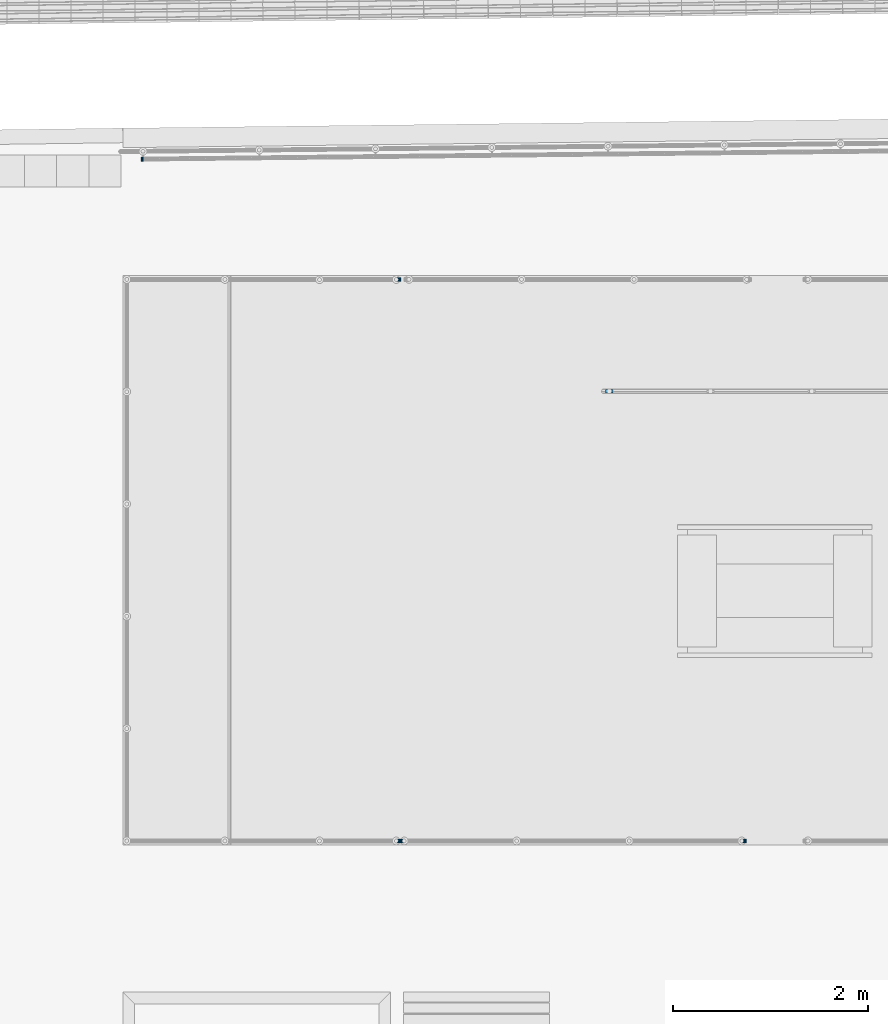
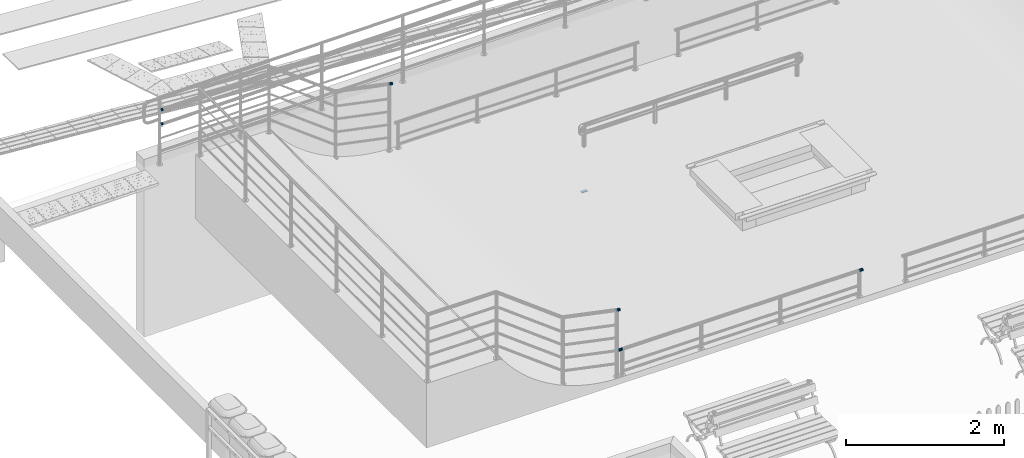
# One storey, part 140 of 237: 7 building element parts, 4 elements without a shape of their own.
"""IFC2X3 building model written with IfcOpenShell, lengths in millimetres."""

from ifc_helpers import new_model, entity, si_unit, converted_unit, derived_unit, money_unit, direction, frame, origin_with_axes, place, context, subcontext, project, spatial, faceted_brep, material, type_object, element, aggregate, save


model = new_model("IFC2X3")

# Units and contexts
model_context = context("Model", 3, precision=0.01, world=origin_with_axes(), true_north=direction((0.0, 1.0)))
body_context = subcontext(model_context, "Body", "Model", "MODEL_VIEW")
ifc_project = project(units=[si_unit("LENGTHUNIT", "METRE", prefix="MILLI"), si_unit("AREAUNIT", "SQUARE_METRE"), si_unit("VOLUMEUNIT", "CUBIC_METRE"), converted_unit("PLANEANGLEUNIT", "DEGREE", entity("IfcPlaneAngleMeasure", 0.0174532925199), si_unit("PLANEANGLEUNIT", "RADIAN"), dimensions=[0, 0, 0, 0, 0, 0, 0]), money_unit("USD"), converted_unit("TIMEUNIT", "Year", entity("IfcTimeMeasure", 31556926.0), si_unit("TIMEUNIT", "SECOND"), dimensions=[0, 0, 1, 0, 0, 0, 0]), si_unit("MASSUNIT", "GRAM", prefix="KILO"), si_unit("THERMODYNAMICTEMPERATUREUNIT", "DEGREE_CELSIUS"), si_unit("LUMINOUSINTENSITYUNIT", "LUMEN"), si_unit("ENERGYUNIT", "JOULE", prefix="MEGA"), derived_unit("THERMALCONDUCTANCEUNIT", [(si_unit("POWERUNIT", "WATT"), 1), (si_unit("LENGTHUNIT", "METRE"), -1), (si_unit("THERMODYNAMICTEMPERATUREUNIT", "KELVIN"), -1)]), derived_unit("SPECIFICHEATCAPACITYUNIT", [(si_unit("ENERGYUNIT", "JOULE"), 1), (si_unit("MASSUNIT", "GRAM", prefix="KILO"), -1), (si_unit("THERMODYNAMICTEMPERATUREUNIT", "KELVIN"), -1)]), derived_unit("MASSDENSITYUNIT", [(si_unit("MASSUNIT", "GRAM", prefix="KILO"), 1), (si_unit("VOLUMEUNIT", "CUBIC_METRE"), -1)])], contexts=[model_context])

# Site, building, storey
site_placement = place(None, origin_with_axes())
site = spatial("IfcSite", under=ifc_project, at=site_placement, Name="Local", CompositionType="ELEMENT")
building_placement = place(site_placement, origin_with_axes())
building = spatial("IfcBuilding", under=site, at=building_placement, Name="Construção", CompositionType="ELEMENT")
storey_placement = place(building_placement, origin_with_axes())
storey = spatial("IfcBuildingStorey", under=building, at=storey_placement, Name="Pavimento Térreo", CompositionType="ELEMENT", Elevation=0.0)

# Railing, building element parts
railing_type = type_object("IfcRailingType", Name="Tipo de Guarda-Corpo", PredefinedType="NOTDEFINED")
railing_1_placement = place(storey_placement, frame((70326.6870103, 28675.2458388, -1357.10819655), z_axis=(0.0, 0.0, 1.0), x_axis=(1.0, 0.0, 0.0)))
railing_1 = element("IfcRailing", 1, at=railing_1_placement, inside=storey, type_object=railing_type, Name="Guarda-Corpo - 004", PredefinedType="NOTDEFINED")
ifc_material_1 = material(Name="Aço - Inoxidável")
building_element_part_1_placement = place(railing_1_placement, origin_with_axes())
building_element_part_1 = element("IfcBuildingElementPart", 2, at=building_element_part_1_placement, material=ifc_material_1, Name="Aço - Inoxidável", context=body_context, shape_type="Brep", body=[
    faceted_brep([(-19056.4372003, 6396.08455106, 680.0), (-19056.4405052, 6396.38837802, 683.472963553), (-19076.4393221, 6396.17083844, 683.472963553), (-19076.4360172, 6395.86701147, 680.0), (-19056.4405052, 6396.38837802, 676.527036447), (-19056.4503196, 6397.29062729, 673.159597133), (-19056.4663451, 6398.76388447, 670.0), (-19056.4880949, 6400.7633854, 667.144247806), (-19056.5149082, 6403.22837624, 664.679111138), (-19056.5459701, 6406.0839595, 662.679491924), (-19056.580337, 6409.24336972, 661.206147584), (-19056.6169646, 6412.61060983, 660.30384494), (-19056.6547399, 6416.08336793, 660.0), (-19056.6925153, 6419.55612604, 660.30384494), (-19056.7291428, 6422.92336615, 661.206147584), (-19056.7635097, 6426.08277637, 662.679491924), (-19056.7945717, 6428.93835963, 664.679111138), (-19056.8213849, 6431.40335047, 667.144247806), (-19056.8431347, 6433.4028514, 670.0), (-19056.8591602, 6434.87610858, 673.159597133), (-19056.8689746, 6435.77835785, 676.527036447), (-19056.8722795, 6436.08218481, 680.0), (-19056.8689746, 6435.77835785, 683.472963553), (-19056.8591602, 6434.87610858, 686.840402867), (-19056.8431347, 6433.4028514, 690.0), (-19056.8213849, 6431.40335047, 692.855752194), (-19056.7945717, 6428.93835963, 695.320888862), (-19056.7635097, 6426.08277637, 697.320508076), (-19056.7291428, 6422.92336615, 698.793852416), (-19056.6925153, 6419.55612604, 699.69615506), (-19056.6547399, 6416.08336793, 700.0), (-19056.6169646, 6412.61060983, 699.69615506), (-19056.580337, 6409.24336972, 698.793852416), (-19056.5459701, 6406.0839595, 697.320508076), (-19056.5149082, 6403.22837624, 695.320888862), (-19056.4880949, 6400.7633854, 692.855752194), (-19056.4663451, 6398.76388447, 690.0), (-19056.4503196, 6397.29062729, 686.840402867), (-19076.4491364, 6397.07308771, 686.840402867), (-19076.465162, 6398.54634489, 690.0), (-19076.4869118, 6400.54584581, 692.855752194), (-19076.513725, 6403.01083665, 695.320888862), (-19076.544787, 6405.86641991, 697.320508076), (-19076.5791539, 6409.02583014, 698.793852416), (-19076.6157814, 6412.39307025, 699.69615506), (-19076.6535568, 6415.86582835, 700.0), (-19076.6913321, 6419.33858646, 699.69615506), (-19076.7279597, 6422.70582657, 698.793852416), (-19076.7623266, 6425.86523679, 697.320508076), (-19076.7933885, 6428.72082005, 695.320888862), (-19076.8202018, 6431.18581089, 692.855752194), (-19076.8419516, 6433.18531181, 690.0), (-19076.8579771, 6434.658569, 686.840402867), (-19076.8677914, 6435.56081826, 683.472963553), (-19076.8710964, 6435.86464523, 680.0), (-19076.8677914, 6435.56081826, 676.527036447), (-19076.8579771, 6434.658569, 673.159597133), (-19076.8419516, 6433.18531181, 670.0), (-19076.8202018, 6431.18581089, 667.144247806), (-19076.7933885, 6428.72082005, 664.679111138), (-19076.7623266, 6425.86523679, 662.679491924), (-19076.7279597, 6422.70582657, 661.206147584), (-19076.6913321, 6419.33858646, 660.30384494), (-19076.6535568, 6415.86582835, 660.0), (-19076.6157814, 6412.39307025, 660.30384494), (-19076.5791539, 6409.02583014, 661.206147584), (-19076.544787, 6405.86641991, 662.679491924), (-19076.513725, 6403.01083665, 664.679111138), (-19076.4869118, 6400.54584581, 667.144247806), (-19076.465162, 6398.54634489, 670.0), (-19076.4491364, 6397.07308771, 673.159597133), (-19076.4393221, 6396.17083844, 676.527036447)], [[[0, 1, 2, 3]], [[0, 4, 5, 6, 7, 8, 9, 10, 11, 12, 13, 14, 15, 16, 17, 18, 19, 20, 21, 22, 23, 24, 25, 26, 27, 28, 29, 30, 31, 32, 33, 34, 35, 36, 37, 1]], [[1, 37, 38, 2]], [[3, 2, 38, 39, 40, 41, 42, 43, 44, 45, 46, 47, 48, 49, 50, 51, 52, 53, 54, 55, 56, 57, 58, 59, 60, 61, 62, 63, 64, 65, 66, 67, 68, 69, 70, 71]], [[4, 0, 3, 71]], [[5, 4, 71, 70]], [[6, 5, 70, 69]], [[7, 6, 69, 68]], [[8, 7, 68, 67]], [[9, 8, 67, 66]], [[10, 9, 66, 65]], [[11, 10, 65, 64]], [[12, 11, 64, 63]], [[13, 12, 63, 62]], [[14, 13, 62, 61]], [[15, 14, 61, 60]], [[16, 15, 60, 59]], [[17, 16, 59, 58]], [[18, 17, 58, 57]], [[19, 18, 57, 56]], [[20, 19, 56, 55]], [[21, 20, 55, 54]], [[22, 21, 54, 53]], [[23, 22, 53, 52]], [[24, 23, 52, 51]], [[25, 24, 51, 50]], [[26, 25, 50, 49]], [[27, 26, 49, 48]], [[28, 27, 48, 47]], [[29, 28, 47, 46]], [[30, 29, 46, 45]], [[31, 30, 45, 44]], [[32, 31, 44, 43]], [[33, 32, 43, 42]], [[34, 33, 42, 41]], [[35, 34, 41, 40]], [[36, 35, 40, 39]], [[37, 36, 39, 38]]]),
])
building_element_part_2_placement = place(railing_1_placement, origin_with_axes())
building_element_part_2 = element("IfcBuildingElementPart", 3, at=building_element_part_2_placement, material=ifc_material_1, Name="Aço - Inoxidável", context=body_context, shape_type="Brep", body=[
    faceted_brep([(-19056.4372003, 6396.08455106, 900.0), (-19056.4405052, 6396.38837802, 903.472963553), (-19076.4393221, 6396.17083844, 903.472963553), (-19076.4360172, 6395.86701147, 900.0), (-19056.4405052, 6396.38837802, 896.527036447), (-19056.4503196, 6397.29062729, 893.159597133), (-19056.4663451, 6398.76388447, 890.0), (-19056.4880949, 6400.7633854, 887.144247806), (-19056.5149082, 6403.22837624, 884.679111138), (-19056.5459701, 6406.0839595, 882.679491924), (-19056.580337, 6409.24336972, 881.206147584), (-19056.6169646, 6412.61060983, 880.30384494), (-19056.6547399, 6416.08336793, 880.0), (-19056.6925153, 6419.55612604, 880.30384494), (-19056.7291428, 6422.92336615, 881.206147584), (-19056.7635097, 6426.08277637, 882.679491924), (-19056.7945717, 6428.93835963, 884.679111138), (-19056.8213849, 6431.40335047, 887.144247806), (-19056.8431347, 6433.4028514, 890.0), (-19056.8591602, 6434.87610858, 893.159597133), (-19056.8689746, 6435.77835785, 896.527036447), (-19056.8722795, 6436.08218481, 900.0), (-19056.8689746, 6435.77835785, 903.472963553), (-19056.8591602, 6434.87610858, 906.840402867), (-19056.8431347, 6433.4028514, 910.0), (-19056.8213849, 6431.40335047, 912.855752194), (-19056.7945717, 6428.93835963, 915.320888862), (-19056.7635097, 6426.08277637, 917.320508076), (-19056.7291428, 6422.92336615, 918.793852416), (-19056.6925153, 6419.55612604, 919.69615506), (-19056.6547399, 6416.08336793, 920.0), (-19056.6169646, 6412.61060983, 919.69615506), (-19056.580337, 6409.24336972, 918.793852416), (-19056.5459701, 6406.0839595, 917.320508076), (-19056.5149082, 6403.22837624, 915.320888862), (-19056.4880949, 6400.7633854, 912.855752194), (-19056.4663451, 6398.76388447, 910.0), (-19056.4503196, 6397.29062729, 906.840402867), (-19076.4491364, 6397.07308771, 906.840402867), (-19076.465162, 6398.54634489, 910.0), (-19076.4869118, 6400.54584581, 912.855752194), (-19076.513725, 6403.01083665, 915.320888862), (-19076.544787, 6405.86641991, 917.320508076), (-19076.5791539, 6409.02583014, 918.793852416), (-19076.6157814, 6412.39307025, 919.69615506), (-19076.6535568, 6415.86582835, 920.0), (-19076.6913321, 6419.33858646, 919.69615506), (-19076.7279597, 6422.70582657, 918.793852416), (-19076.7623266, 6425.86523679, 917.320508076), (-19076.7933885, 6428.72082005, 915.320888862), (-19076.8202018, 6431.18581089, 912.855752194), (-19076.8419516, 6433.18531181, 910.0), (-19076.8579771, 6434.658569, 906.840402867), (-19076.8677914, 6435.56081826, 903.472963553), (-19076.8710964, 6435.86464523, 900.0), (-19076.8677914, 6435.56081826, 896.527036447), (-19076.8579771, 6434.658569, 893.159597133), (-19076.8419516, 6433.18531181, 890.0), (-19076.8202018, 6431.18581089, 887.144247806), (-19076.7933885, 6428.72082005, 884.679111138), (-19076.7623266, 6425.86523679, 882.679491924), (-19076.7279597, 6422.70582657, 881.206147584), (-19076.6913321, 6419.33858646, 880.30384494), (-19076.6535568, 6415.86582835, 880.0), (-19076.6157814, 6412.39307025, 880.30384494), (-19076.5791539, 6409.02583014, 881.206147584), (-19076.544787, 6405.86641991, 882.679491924), (-19076.513725, 6403.01083665, 884.679111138), (-19076.4869118, 6400.54584581, 887.144247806), (-19076.465162, 6398.54634489, 890.0), (-19076.4491364, 6397.07308771, 893.159597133), (-19076.4393221, 6396.17083844, 896.527036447)], [[[0, 1, 2, 3]], [[0, 4, 5, 6, 7, 8, 9, 10, 11, 12, 13, 14, 15, 16, 17, 18, 19, 20, 21, 22, 23, 24, 25, 26, 27, 28, 29, 30, 31, 32, 33, 34, 35, 36, 37, 1]], [[1, 37, 38, 2]], [[3, 2, 38, 39, 40, 41, 42, 43, 44, 45, 46, 47, 48, 49, 50, 51, 52, 53, 54, 55, 56, 57, 58, 59, 60, 61, 62, 63, 64, 65, 66, 67, 68, 69, 70, 71]], [[4, 0, 3, 71]], [[5, 4, 71, 70]], [[6, 5, 70, 69]], [[7, 6, 69, 68]], [[8, 7, 68, 67]], [[9, 8, 67, 66]], [[10, 9, 66, 65]], [[11, 10, 65, 64]], [[12, 11, 64, 63]], [[13, 12, 63, 62]], [[14, 13, 62, 61]], [[15, 14, 61, 60]], [[16, 15, 60, 59]], [[17, 16, 59, 58]], [[18, 17, 58, 57]], [[19, 18, 57, 56]], [[20, 19, 56, 55]], [[21, 20, 55, 54]], [[22, 21, 54, 53]], [[23, 22, 53, 52]], [[24, 23, 52, 51]], [[25, 24, 51, 50]], [[26, 25, 50, 49]], [[27, 26, 49, 48]], [[28, 27, 48, 47]], [[29, 28, 47, 46]], [[30, 29, 46, 45]], [[31, 30, 45, 44]], [[32, 31, 44, 43]], [[33, 32, 43, 42]], [[34, 33, 42, 41]], [[35, 34, 41, 40]], [[36, 35, 40, 39]], [[37, 36, 39, 38]]]),
])
aggregate(railing_1, [building_element_part_1, building_element_part_2])

railing_2_placement = place(storey_placement, frame((53912.4440926, 33356.4497128, -1263.04952679), z_axis=(0.0, 0.0, 1.0), x_axis=(1.0, 0.0, 0.0)))
railing_2 = element("IfcRailing", 4, at=railing_2_placement, inside=storey, type_object=railing_type, Name="Guarda-Corpo - 001", PredefinedType="NOTDEFINED")
building_element_part_3_placement = place(railing_2_placement, origin_with_axes())
building_element_part_3 = element("IfcBuildingElementPart", 5, at=building_element_part_3_placement, material=ifc_material_1, Name="Aço - Inoxidável", context=body_context, shape_type="Brep", body=[
    faceted_brep([(-44.0298793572, 517.133522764, 1038.71851149), (-43.3236510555, 516.830881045, 1042.11901839), (5.63312472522, 516.91432069, 1031.95894246), (4.92689642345, 517.216962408, 1028.55843556), (-44.7350719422, 516.828475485, 1035.3180046), (-45.4178018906, 515.925007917, 1032.02082038), (-46.0573247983, 514.450571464, 1028.92714212), (-46.6342090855, 512.449966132, 1026.13096966), (-47.130926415, 509.983979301, 1023.71726329), (-47.532384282, 507.127538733, 1021.75936226), (-47.8263845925, 503.96743593, 1020.31675639), (-48.0039942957, 500.599689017, 1019.43327854), (-48.0598168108, 497.126625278, 1019.13577274), (-47.9921559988, 493.653771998, 1019.43327854), (-47.8030676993, 490.286650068, 1020.31675639), (-47.4982972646, 487.127567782, 1021.75936226), (-47.08710499, 484.272512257, 1023.71726329), (-46.5819847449, 481.808232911, 1026.13096966), (-45.9982843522, 479.809605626, 1028.92714212), (-45.3537392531, 478.337357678, 1032.02082038), (-44.6679336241, 477.436222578, 1035.3180046), (-43.9617053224, 477.13358086, 1038.71851149), (-43.2565127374, 477.438628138, 1042.11901839), (-42.573782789, 478.342095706, 1045.41620261), (-41.9342598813, 479.816532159, 1048.50988087), (-41.3573755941, 481.817137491, 1051.30605333), (-40.8606582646, 484.283124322, 1053.7197597), (-40.4592003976, 487.13956489, 1055.67766073), (-40.1652000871, 490.299667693, 1057.1202666), (-39.9875903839, 493.667414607, 1058.00374444), (-39.9317678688, 497.140478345, 1058.30125025), (-39.9994286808, 500.613331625, 1058.00374444), (-40.1885169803, 503.980453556, 1057.1202666), (-40.493287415, 507.139535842, 1055.67766073), (-40.9044796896, 509.994591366, 1053.7197597), (-41.4095999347, 512.458870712, 1051.30605333), (-41.9933003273, 514.457497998, 1048.50988087), (-42.6378454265, 515.929745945, 1045.41620261), (6.31893035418, 516.01318559, 1035.25612668), (6.96347545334, 514.540937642, 1038.34980494), (7.54717584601, 512.542310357, 1041.14597739), (8.05229609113, 510.078031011, 1043.55968376), (8.46348836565, 507.222975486, 1045.5175848), (8.76825880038, 504.0638932, 1046.96019066), (8.95734709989, 500.69677127, 1047.84366851), (9.02500791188, 497.22391799, 1048.14117431), (8.96918539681, 493.750854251, 1047.84366851), (8.79157569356, 490.383107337, 1046.96019066), (8.4975753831, 487.223004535, 1045.5175848), (8.09611751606, 484.366563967, 1043.55968376), (7.59940018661, 481.900577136, 1041.14597739), (7.02251589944, 479.899971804, 1038.34980494), (6.3829929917, 478.425535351, 1035.25612668), (5.70026304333, 477.522067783, 1031.95894246), (4.99507045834, 477.217020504, 1028.55843556), (4.28884215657, 477.519662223, 1025.15792866), (3.6030365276, 478.420797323, 1021.86074444), (2.95849142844, 479.89304527, 1018.76706618), (2.37479103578, 481.891672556, 1015.97089372), (1.86967079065, 484.355951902, 1013.55718736), (1.45847851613, 487.211007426, 1011.59928632), (1.1537080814, 490.370089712, 1010.15668046), (0.964619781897, 493.737211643, 1009.27320261), (0.896958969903, 497.210064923, 1008.97569681), (0.952781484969, 500.683128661, 1009.27320261), (1.13039118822, 504.050875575, 1010.15668046), (1.42439149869, 507.210978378, 1011.59928632), (1.82584936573, 510.067418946, 1013.55718736), (2.32256669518, 512.533405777, 1015.97089372), (2.89945098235, 514.534011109, 1018.76706618), (3.53897389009, 516.008447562, 1021.86074444), (4.22170383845, 516.91191513, 1025.15792866)], [[[0, 1, 2, 3]], [[0, 4, 5, 6, 7, 8, 9, 10, 11, 12, 13, 14, 15, 16, 17, 18, 19, 20, 21, 22, 23, 24, 25, 26, 27, 28, 29, 30, 31, 32, 33, 34, 35, 36, 37, 1]], [[1, 37, 38, 2]], [[3, 2, 38, 39, 40, 41, 42, 43, 44, 45, 46, 47, 48, 49, 50, 51, 52, 53, 54, 55, 56, 57, 58, 59, 60, 61, 62, 63, 64, 65, 66, 67, 68, 69, 70, 71]], [[4, 0, 3, 71]], [[5, 4, 71, 70]], [[6, 5, 70, 69]], [[7, 6, 69, 68]], [[8, 7, 68, 67]], [[9, 8, 67, 66]], [[10, 9, 66, 65]], [[11, 10, 65, 64]], [[12, 11, 64, 63]], [[13, 12, 63, 62]], [[14, 13, 62, 61]], [[15, 14, 61, 60]], [[16, 15, 60, 59]], [[17, 16, 59, 58]], [[18, 17, 58, 57]], [[19, 18, 57, 56]], [[20, 19, 56, 55]], [[21, 20, 55, 54]], [[22, 21, 54, 53]], [[23, 22, 53, 52]], [[24, 23, 52, 51]], [[25, 24, 51, 50]], [[26, 25, 50, 49]], [[27, 26, 49, 48]], [[28, 27, 48, 47]], [[29, 28, 47, 46]], [[30, 29, 46, 45]], [[31, 30, 45, 44]], [[32, 31, 44, 43]], [[33, 32, 43, 42]], [[34, 33, 42, 41]], [[35, 34, 41, 40]], [[36, 35, 40, 39]], [[37, 36, 39, 38]]]),
])
building_element_part_4_placement = place(railing_2_placement, origin_with_axes())
building_element_part_4 = element("IfcBuildingElementPart", 6, at=building_element_part_4_placement, material=ifc_material_1, Name="Aço - Inoxidável", context=body_context, shape_type="Brep", body=[
    faceted_brep([(-44.0640360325, -5251.51345888, 1038.71852472), (-43.3583235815, -5251.81730382, 1042.11903142), (5.59852036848, -5251.81730382, 1031.95894134), (4.89280791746, -5251.51345888, 1028.55843464), (-44.7697484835, -5251.81730382, 1035.31801803), (-45.4540182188, -5252.71960646, 1032.02083401), (-46.0960540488, -5254.1929508, 1028.92715594), (-46.6763480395, -5256.19257001, 1026.13098364), (-47.1772682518, -5258.65770668, 1023.71727742), (-47.5835944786, -5261.51345888, 1021.75937651), (-47.8829807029, -5264.67305601, 1020.31677073), (-48.0663302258, -5268.04049532, 1019.43329293), (-48.128072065, -5271.51345888, 1019.13578715), (-48.0663302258, -5274.98642243, 1019.43329293), (-47.8829807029, -5278.35386174, 1020.31677073), (-47.5835944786, -5281.51345888, 1021.75937651), (-47.1772682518, -5284.36921107, 1023.71727742), (-46.6763480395, -5286.83434774, 1026.13098364), (-46.0960540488, -5288.83396695, 1028.92715594), (-45.4540182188, -5290.30731129, 1032.02083401), (-44.7697484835, -5291.20961394, 1035.31801803), (-44.0640360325, -5291.51345888, 1038.71852472), (-43.3583235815, -5291.20961394, 1042.11903142), (-42.6740538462, -5290.30731129, 1045.41621544), (-42.0320180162, -5288.83396695, 1048.50989351), (-41.4517240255, -5286.83434774, 1051.30606581), (-40.9508038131, -5284.36921107, 1053.71977203), (-40.5444775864, -5281.51345888, 1055.67767294), (-40.2450913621, -5278.35386174, 1057.12027872), (-40.0617418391, -5274.98642243, 1058.00375652), (-40.0, -5271.51345888, 1058.3012623), (-40.0617418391, -5268.04049532, 1058.00375652), (-40.2450913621, -5264.67305601, 1057.12027872), (-40.5444775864, -5261.51345888, 1055.67767294), (-40.9508038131, -5258.65770668, 1053.71977203), (-41.4517240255, -5256.19257001, 1051.30606581), (-42.0320180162, -5254.1929508, 1048.50989351), (-42.6740538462, -5252.71960646, 1045.41621544), (6.28279010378, -5252.71960646, 1035.25612536), (6.92482593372, -5254.1929508, 1038.34980343), (7.50511992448, -5256.19257001, 1041.14597572), (8.00604013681, -5258.65770668, 1043.55968195), (8.41236636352, -5261.51345888, 1045.51758286), (8.71175258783, -5264.67305601, 1046.96018864), (8.89510211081, -5268.04049532, 1047.84366644), (8.95684394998, -5271.51345888, 1048.14117222), (8.89510211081, -5274.98642243, 1047.84366644), (8.71175258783, -5278.35386174, 1046.96018864), (8.41236636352, -5281.51345888, 1045.51758286), (8.00604013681, -5284.36921107, 1043.55968195), (7.50511992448, -5286.83434774, 1041.14597572), (6.92482593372, -5288.83396695, 1038.34980343), (6.28279010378, -5290.30731129, 1035.25612536), (5.59852036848, -5291.20961394, 1031.95894134), (4.89280791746, -5291.51345888, 1028.55843464), (4.18709546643, -5291.20961394, 1025.15792795), (3.50282573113, -5290.30731129, 1021.86074393), (2.86078990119, -5288.83396695, 1018.76706585), (2.28049591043, -5286.83434774, 1015.97089356), (1.77957569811, -5284.36921107, 1013.55718734), (1.3732494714, -5281.51345888, 1011.59928642), (1.07386324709, -5278.35386174, 1010.15668064), (0.890513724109, -5274.98642243, 1009.27320285), (0.828771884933, -5271.51345888, 1008.97569706), (0.890513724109, -5268.04049532, 1009.27320285), (1.07386324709, -5264.67305601, 1010.15668064), (1.3732494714, -5261.51345888, 1011.59928642), (1.77957569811, -5258.65770668, 1013.55718734), (2.28049591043, -5256.19257001, 1015.97089356), (2.86078990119, -5254.1929508, 1018.76706585), (3.50282573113, -5252.71960646, 1021.86074393), (4.18709546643, -5251.81730382, 1025.15792795)], [[[0, 1, 2, 3]], [[0, 4, 5, 6, 7, 8, 9, 10, 11, 12, 13, 14, 15, 16, 17, 18, 19, 20, 21, 22, 23, 24, 25, 26, 27, 28, 29, 30, 31, 32, 33, 34, 35, 36, 37, 1]], [[1, 37, 38, 2]], [[3, 2, 38, 39, 40, 41, 42, 43, 44, 45, 46, 47, 48, 49, 50, 51, 52, 53, 54, 55, 56, 57, 58, 59, 60, 61, 62, 63, 64, 65, 66, 67, 68, 69, 70, 71]], [[4, 0, 3, 71]], [[5, 4, 71, 70]], [[6, 5, 70, 69]], [[7, 6, 69, 68]], [[8, 7, 68, 67]], [[9, 8, 67, 66]], [[10, 9, 66, 65]], [[11, 10, 65, 64]], [[12, 11, 64, 63]], [[13, 12, 63, 62]], [[14, 13, 62, 61]], [[15, 14, 61, 60]], [[16, 15, 60, 59]], [[17, 16, 59, 58]], [[18, 17, 58, 57]], [[19, 18, 57, 56]], [[20, 19, 56, 55]], [[21, 20, 55, 54]], [[22, 21, 54, 53]], [[23, 22, 53, 52]], [[24, 23, 52, 51]], [[25, 24, 51, 50]], [[26, 25, 50, 49]], [[27, 26, 49, 48]], [[28, 27, 48, 47]], [[29, 28, 47, 46]], [[30, 29, 46, 45]], [[31, 30, 45, 44]], [[32, 31, 44, 43]], [[33, 32, 43, 42]], [[34, 33, 42, 41]], [[35, 34, 41, 40]], [[36, 35, 40, 39]], [[37, 36, 39, 38]]]),
])
aggregate(railing_2, [building_element_part_3, building_element_part_4])

# Railing, building element part
railing_3_placement = place(storey_placement, frame((56020.9807317, 32685.2089387, -1957.10819431), z_axis=(0.0, 0.0, 1.0), x_axis=(1.0, 0.0, 0.0)))
railing_3 = element("IfcRailing", 7, at=railing_3_placement, inside=storey, type_object=railing_type, Name="Guarda-Corpo - 001", PredefinedType="NOTDEFINED")
ifc_material_2 = material(Name="Alumínio")
building_element_part_5_placement = place(railing_3_placement, origin_with_axes())
building_element_part_5 = element("IfcBuildingElementPart", 8, at=building_element_part_5_placement, material=ifc_material_2, Name="Alumínio", context=body_context, shape_type="Brep", body=[
    faceted_brep([(0.0, 0.0, 0.0), (80.0, 0.0, 0.0), (80.0, 0.0, 5.0), (0.0, 0.0, 5.0), (0.0, 40.0, 0.0), (80.0, 40.0, 0.0), (80.0, 40.0, 5.0), (0.0, 40.0, 5.0)], [[[0, 1, 2, 3]], [[0, 4, 5, 1]], [[1, 5, 6, 2]], [[3, 2, 6, 7]], [[4, 0, 3, 7]], [[5, 4, 7, 6]]]),
])
aggregate(railing_3, [building_element_part_5])

# Railing, building element parts
railing_4_placement = place(storey_placement, frame((53912.4440926, 28006.4497128, -1887.10818411), z_axis=(0.0, 0.0, 1.0), x_axis=(1.0, 0.0, 0.0)))
railing_4 = element("IfcRailing", 9, at=railing_4_placement, inside=storey, type_object=railing_type, Name="Guarda-Corpo - 002", PredefinedType="NOTDEFINED")
building_element_part_6_placement = place(railing_4_placement, origin_with_axes())
building_element_part_6 = element("IfcBuildingElementPart", 10, at=building_element_part_6_placement, material=ifc_material_1, Name="Aço - Inoxidável", context=body_context, shape_type="Brep", body=[
    faceted_brep([(40.0, 58.4865411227, 1030.0), (40.0, 58.7903860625, 1033.47296355), (-9.99999999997, 58.7903860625, 1033.47296355), (-9.99999999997, 58.4865411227, 1030.0), (40.0, 58.7903860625, 1026.52703645), (40.0, 59.692688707, 1023.15959713), (40.0, 61.166033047, 1020.0), (40.0, 63.1656522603, 1017.14424781), (40.0, 65.630788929, 1014.67911114), (40.0, 68.4865411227, 1012.67949192), (40.0, 71.6461382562, 1011.20614758), (40.0, 75.0135775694, 1010.30384494), (40.0, 78.4865411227, 1010.0), (40.0, 81.9595046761, 1010.30384494), (40.0, 85.3269439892, 1011.20614758), (40.0, 88.4865411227, 1012.67949192), (40.0, 91.3422933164, 1014.67911114), (40.0, 93.8074299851, 1017.14424781), (40.0, 95.8070491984, 1020.0), (40.0, 97.2803935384, 1023.15959713), (40.0, 98.182696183, 1026.52703645), (40.0, 98.4865411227, 1030.0), (40.0, 98.182696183, 1033.47296355), (40.0, 97.2803935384, 1036.84040287), (40.0, 95.8070491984, 1040.0), (40.0, 93.8074299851, 1042.85575219), (40.0, 91.3422933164, 1045.32088886), (40.0, 88.4865411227, 1047.32050808), (40.0, 85.3269439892, 1048.79385242), (40.0, 81.9595046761, 1049.69615506), (40.0, 78.4865411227, 1050.0), (40.0, 75.0135775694, 1049.69615506), (40.0, 71.6461382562, 1048.79385242), (40.0, 68.4865411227, 1047.32050808), (40.0, 65.630788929, 1045.32088886), (40.0, 63.1656522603, 1042.85575219), (40.0, 61.166033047, 1040.0), (40.0, 59.692688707, 1036.84040287), (-9.99999999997, 59.692688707, 1036.84040287), (-9.99999999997, 61.166033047, 1040.0), (-9.99999999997, 63.1656522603, 1042.85575219), (-9.99999999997, 65.630788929, 1045.32088886), (-9.99999999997, 68.4865411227, 1047.32050808), (-9.99999999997, 71.6461382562, 1048.79385242), (-9.99999999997, 75.0135775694, 1049.69615506), (-9.99999999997, 78.4865411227, 1050.0), (-9.99999999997, 81.9595046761, 1049.69615506), (-9.99999999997, 85.3269439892, 1048.79385242), (-9.99999999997, 88.4865411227, 1047.32050808), (-9.99999999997, 91.3422933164, 1045.32088886), (-9.99999999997, 93.8074299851, 1042.85575219), (-9.99999999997, 95.8070491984, 1040.0), (-9.99999999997, 97.2803935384, 1036.84040287), (-9.99999999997, 98.182696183, 1033.47296355), (-9.99999999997, 98.4865411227, 1030.0), (-9.99999999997, 98.182696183, 1026.52703645), (-9.99999999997, 97.2803935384, 1023.15959713), (-9.99999999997, 95.8070491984, 1020.0), (-9.99999999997, 93.8074299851, 1017.14424781), (-9.99999999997, 91.3422933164, 1014.67911114), (-9.99999999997, 88.4865411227, 1012.67949192), (-9.99999999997, 85.3269439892, 1011.20614758), (-9.99999999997, 81.9595046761, 1010.30384494), (-9.99999999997, 78.4865411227, 1010.0), (-9.99999999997, 75.0135775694, 1010.30384494), (-9.99999999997, 71.6461382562, 1011.20614758), (-9.99999999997, 68.4865411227, 1012.67949192), (-9.99999999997, 65.630788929, 1014.67911114), (-9.99999999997, 63.1656522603, 1017.14424781), (-9.99999999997, 61.166033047, 1020.0), (-9.99999999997, 59.692688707, 1023.15959713), (-9.99999999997, 58.7903860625, 1026.52703645)], [[[0, 1, 2, 3]], [[0, 4, 5, 6, 7, 8, 9, 10, 11, 12, 13, 14, 15, 16, 17, 18, 19, 20, 21, 22, 23, 24, 25, 26, 27, 28, 29, 30, 31, 32, 33, 34, 35, 36, 37, 1]], [[1, 37, 38, 2]], [[3, 2, 38, 39, 40, 41, 42, 43, 44, 45, 46, 47, 48, 49, 50, 51, 52, 53, 54, 55, 56, 57, 58, 59, 60, 61, 62, 63, 64, 65, 66, 67, 68, 69, 70, 71]], [[4, 0, 3, 71]], [[5, 4, 71, 70]], [[6, 5, 70, 69]], [[7, 6, 69, 68]], [[8, 7, 68, 67]], [[9, 8, 67, 66]], [[10, 9, 66, 65]], [[11, 10, 65, 64]], [[12, 11, 64, 63]], [[13, 12, 63, 62]], [[14, 13, 62, 61]], [[15, 14, 61, 60]], [[16, 15, 60, 59]], [[17, 16, 59, 58]], [[18, 17, 58, 57]], [[19, 18, 57, 56]], [[20, 19, 56, 55]], [[21, 20, 55, 54]], [[22, 21, 54, 53]], [[23, 22, 53, 52]], [[24, 23, 52, 51]], [[25, 24, 51, 50]], [[26, 25, 50, 49]], [[27, 26, 49, 48]], [[28, 27, 48, 47]], [[29, 28, 47, 46]], [[30, 29, 46, 45]], [[31, 30, 45, 44]], [[32, 31, 44, 43]], [[33, 32, 43, 42]], [[34, 33, 42, 41]], [[35, 34, 41, 40]], [[36, 35, 40, 39]], [[37, 36, 39, 38]]]),
])
building_element_part_7_placement = place(railing_4_placement, origin_with_axes())
building_element_part_7 = element("IfcBuildingElementPart", 11, at=building_element_part_7_placement, material=ifc_material_1, Name="Aço - Inoxidável", context=body_context, shape_type="Brep", body=[
    faceted_brep([(3510.0, 98.4865411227, 1029.99998808), (3510.0, 98.182696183, 1033.47295163), (3560.0, 98.182696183, 1033.47295163), (3560.0, 98.4865411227, 1029.99998808), (3510.0, 98.182696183, 1026.52702453), (3510.0, 97.2803935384, 1023.15958521), (3510.0, 95.8070491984, 1019.99998808), (3510.0, 93.8074299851, 1017.14423589), (3510.0, 91.3422933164, 1014.67909922), (3510.0, 88.4865411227, 1012.67948), (3510.0, 85.3269439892, 1011.20613566), (3510.0, 81.9595046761, 1010.30383302), (3510.0, 78.4865411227, 1009.99998808), (3510.0, 75.0135775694, 1010.30383302), (3510.0, 71.6461382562, 1011.20613566), (3510.0, 68.4865411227, 1012.67948), (3510.0, 65.630788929, 1014.67909922), (3510.0, 63.1656522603, 1017.14423589), (3510.0, 61.166033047, 1019.99998808), (3510.0, 59.692688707, 1023.15958521), (3510.0, 58.7903860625, 1026.52702453), (3510.0, 58.4865411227, 1029.99998808), (3510.0, 58.7903860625, 1033.47295163), (3510.0, 59.692688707, 1036.84039095), (3510.0, 61.166033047, 1039.99998808), (3510.0, 63.1656522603, 1042.85574027), (3510.0, 65.630788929, 1045.32087694), (3510.0, 68.4865411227, 1047.32049615), (3510.0, 71.6461382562, 1048.79384049), (3510.0, 75.0135775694, 1049.69614314), (3510.0, 78.4865411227, 1049.99998808), (3510.0, 81.9595046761, 1049.69614314), (3510.0, 85.3269439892, 1048.79384049), (3510.0, 88.4865411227, 1047.32049615), (3510.0, 91.3422933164, 1045.32087694), (3510.0, 93.8074299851, 1042.85574027), (3510.0, 95.8070491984, 1039.99998808), (3510.0, 97.2803935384, 1036.84039095), (3560.0, 97.2803935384, 1036.84039095), (3560.0, 95.8070491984, 1039.99998808), (3560.0, 93.8074299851, 1042.85574027), (3560.0, 91.3422933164, 1045.32087694), (3560.0, 88.4865411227, 1047.32049615), (3560.0, 85.3269439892, 1048.79384049), (3560.0, 81.9595046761, 1049.69614314), (3560.0, 78.4865411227, 1049.99998808), (3560.0, 75.0135775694, 1049.69614314), (3560.0, 71.6461382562, 1048.79384049), (3560.0, 68.4865411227, 1047.32049615), (3560.0, 65.630788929, 1045.32087694), (3560.0, 63.1656522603, 1042.85574027), (3560.0, 61.166033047, 1039.99998808), (3560.0, 59.692688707, 1036.84039095), (3560.0, 58.7903860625, 1033.47295163), (3560.0, 58.4865411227, 1029.99998808), (3560.0, 58.7903860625, 1026.52702453), (3560.0, 59.692688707, 1023.15958521), (3560.0, 61.166033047, 1019.99998808), (3560.0, 63.1656522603, 1017.14423589), (3560.0, 65.630788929, 1014.67909922), (3560.0, 68.4865411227, 1012.67948), (3560.0, 71.6461382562, 1011.20613566), (3560.0, 75.0135775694, 1010.30383302), (3560.0, 78.4865411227, 1009.99998808), (3560.0, 81.9595046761, 1010.30383302), (3560.0, 85.3269439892, 1011.20613566), (3560.0, 88.4865411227, 1012.67948), (3560.0, 91.3422933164, 1014.67909922), (3560.0, 93.8074299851, 1017.14423589), (3560.0, 95.8070491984, 1019.99998808), (3560.0, 97.2803935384, 1023.15958521), (3560.0, 98.182696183, 1026.52702453)], [[[0, 1, 2, 3]], [[0, 4, 5, 6, 7, 8, 9, 10, 11, 12, 13, 14, 15, 16, 17, 18, 19, 20, 21, 22, 23, 24, 25, 26, 27, 28, 29, 30, 31, 32, 33, 34, 35, 36, 37, 1]], [[1, 37, 38, 2]], [[3, 2, 38, 39, 40, 41, 42, 43, 44, 45, 46, 47, 48, 49, 50, 51, 52, 53, 54, 55, 56, 57, 58, 59, 60, 61, 62, 63, 64, 65, 66, 67, 68, 69, 70, 71]], [[4, 0, 3, 71]], [[5, 4, 71, 70]], [[6, 5, 70, 69]], [[7, 6, 69, 68]], [[8, 7, 68, 67]], [[9, 8, 67, 66]], [[10, 9, 66, 65]], [[11, 10, 65, 64]], [[12, 11, 64, 63]], [[13, 12, 63, 62]], [[14, 13, 62, 61]], [[15, 14, 61, 60]], [[16, 15, 60, 59]], [[17, 16, 59, 58]], [[18, 17, 58, 57]], [[19, 18, 57, 56]], [[20, 19, 56, 55]], [[21, 20, 55, 54]], [[22, 21, 54, 53]], [[23, 22, 53, 52]], [[24, 23, 52, 51]], [[25, 24, 51, 50]], [[26, 25, 50, 49]], [[27, 26, 49, 48]], [[28, 27, 48, 47]], [[29, 28, 47, 46]], [[30, 29, 46, 45]], [[31, 30, 45, 44]], [[32, 31, 44, 43]], [[33, 32, 43, 42]], [[34, 33, 42, 41]], [[35, 34, 41, 40]], [[36, 35, 40, 39]], [[37, 36, 39, 38]]]),
])
aggregate(railing_4, [building_element_part_6, building_element_part_7])

save(model, "model.ifc")
